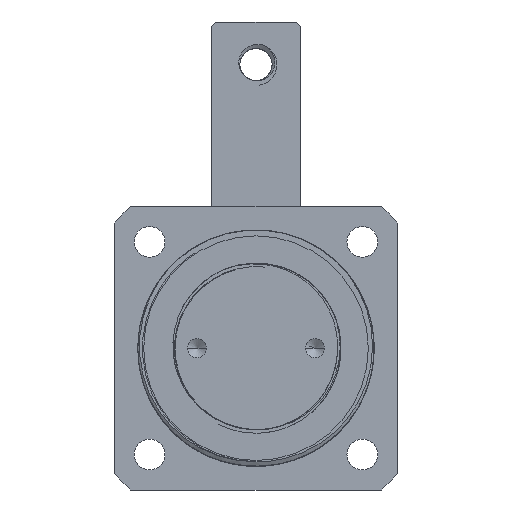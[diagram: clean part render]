
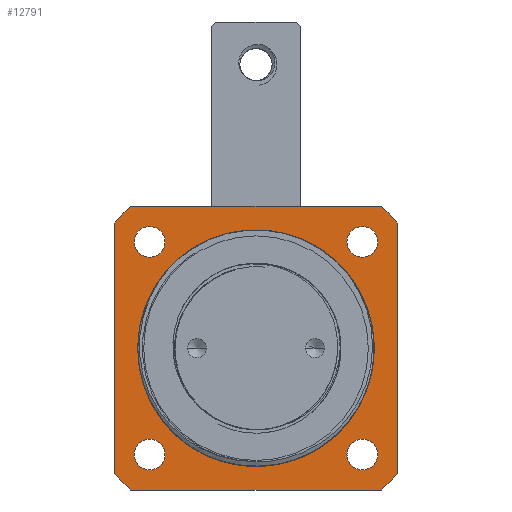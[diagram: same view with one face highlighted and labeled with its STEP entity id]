
A CAD part, left-side view. The second image highlights one B-rep face of the part: STEP entity #12791.
In plain terms, the highlighted planar face has unit normal (-1, 0, 0).
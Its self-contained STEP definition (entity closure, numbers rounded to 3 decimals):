
#1667=DIRECTION('',(0.,-1.,0.));
#1668=VECTOR('',#1667,52.915);
#1669=CARTESIAN_POINT('',(72.5,26.458,-30.));
#1670=LINE('',#1669,#1668);
#1710=DIRECTION('',(0.,0.,-1.));
#1711=VECTOR('',#1710,52.915);
#1712=CARTESIAN_POINT('',(72.5,30.,26.458));
#1713=LINE('',#1712,#1711);
#1797=DIRECTION('',(0.,1.,0.));
#1798=VECTOR('',#1797,52.915);
#1799=CARTESIAN_POINT('',(72.5,-26.458,30.));
#1800=LINE('',#1799,#1798);
#1843=CARTESIAN_POINT('',(72.5,-22.5,22.5));
#1844=DIRECTION('',(-1.,0.,0.));
#1845=DIRECTION('',(0.,0.,1.));
#1846=AXIS2_PLACEMENT_3D('',#1843,#1844,#1845);
#1848=CARTESIAN_POINT('',(72.5,-22.5,22.5));
#1849=DIRECTION('',(-1.,0.,0.));
#1850=DIRECTION('',(0.,0.,-1.));
#1851=AXIS2_PLACEMENT_3D('',#1848,#1849,#1850);
#1853=CARTESIAN_POINT('',(72.5,22.5,22.5));
#1854=DIRECTION('',(-1.,0.,0.));
#1855=DIRECTION('',(0.,0.,1.));
#1856=AXIS2_PLACEMENT_3D('',#1853,#1854,#1855);
#1858=CARTESIAN_POINT('',(72.5,22.5,22.5));
#1859=DIRECTION('',(-1.,0.,0.));
#1860=DIRECTION('',(0.,0.,-1.));
#1861=AXIS2_PLACEMENT_3D('',#1858,#1859,#1860);
#1863=CARTESIAN_POINT('',(72.5,-22.5,-22.5));
#1864=DIRECTION('',(-1.,0.,0.));
#1865=DIRECTION('',(0.,0.,1.));
#1866=AXIS2_PLACEMENT_3D('',#1863,#1864,#1865);
#1868=CARTESIAN_POINT('',(72.5,-22.5,-22.5));
#1869=DIRECTION('',(-1.,0.,0.));
#1870=DIRECTION('',(0.,0.,-1.));
#1871=AXIS2_PLACEMENT_3D('',#1868,#1869,#1870);
#1873=CARTESIAN_POINT('',(72.5,22.5,-22.5));
#1874=DIRECTION('',(-1.,0.,0.));
#1875=DIRECTION('',(0.,0.,1.));
#1876=AXIS2_PLACEMENT_3D('',#1873,#1874,#1875);
#1878=CARTESIAN_POINT('',(72.5,22.5,-22.5));
#1879=DIRECTION('',(-1.,0.,0.));
#1880=DIRECTION('',(0.,0.,-1.));
#1881=AXIS2_PLACEMENT_3D('',#1878,#1879,#1880);
#1883=CARTESIAN_POINT('',(72.5,0.,0.));
#1884=DIRECTION('',(1.,0.,0.));
#1885=DIRECTION('',(0.,-0.661,0.75));
#1886=AXIS2_PLACEMENT_3D('',#1883,#1884,#1885);
#1888=DIRECTION('',(0.,0.,-1.));
#1889=VECTOR('',#1888,52.915);
#1890=CARTESIAN_POINT('',(72.5,-30.,26.458));
#1891=LINE('',#1890,#1889);
#1892=CARTESIAN_POINT('',(72.5,0.,0.));
#1893=DIRECTION('',(1.,0.,0.));
#1894=DIRECTION('',(0.,-0.75,-0.661));
#1895=AXIS2_PLACEMENT_3D('',#1892,#1893,#1894);
#1897=CARTESIAN_POINT('',(72.5,0.,0.));
#1898=DIRECTION('',(1.,0.,0.));
#1899=DIRECTION('',(0.,0.661,-0.75));
#1900=AXIS2_PLACEMENT_3D('',#1897,#1898,#1899);
#1902=CARTESIAN_POINT('',(72.5,0.,0.));
#1903=DIRECTION('',(1.,0.,0.));
#1904=DIRECTION('',(0.,0.75,0.661));
#1905=AXIS2_PLACEMENT_3D('',#1902,#1903,#1904);
#4332=CARTESIAN_POINT('',(72.5,0.,0.));
#4333=DIRECTION('',(1.,0.,0.));
#4334=DIRECTION('',(0.,-1.,0.));
#4335=AXIS2_PLACEMENT_3D('',#4332,#4333,#4334);
#6811=CARTESIAN_POINT('',(72.5,0.,0.));
#6812=DIRECTION('',(1.,0.,0.));
#6813=DIRECTION('',(0.,1.,0.));
#6814=AXIS2_PLACEMENT_3D('',#6811,#6812,#6813);
#10502=CARTESIAN_POINT('',(72.5,-22.5,25.75));
#10503=CARTESIAN_POINT('',(72.5,-22.5,19.25));
#10504=VERTEX_POINT('',#10502);
#10505=VERTEX_POINT('',#10503);
#10506=CARTESIAN_POINT('',(72.5,22.5,25.75));
#10507=CARTESIAN_POINT('',(72.5,22.5,19.25));
#10508=VERTEX_POINT('',#10506);
#10509=VERTEX_POINT('',#10507);
#10510=CARTESIAN_POINT('',(72.5,-22.5,-19.25));
#10511=CARTESIAN_POINT('',(72.5,-22.5,-25.75));
#10512=VERTEX_POINT('',#10510);
#10513=VERTEX_POINT('',#10511);
#10514=CARTESIAN_POINT('',(72.5,22.5,-19.25));
#10515=CARTESIAN_POINT('',(72.5,22.5,-25.75));
#10516=VERTEX_POINT('',#10514);
#10517=VERTEX_POINT('',#10515);
#10518=CARTESIAN_POINT('',(72.5,-26.458,30.));
#10519=CARTESIAN_POINT('',(72.5,-30.,26.458));
#10520=VERTEX_POINT('',#10518);
#10521=VERTEX_POINT('',#10519);
#10522=CARTESIAN_POINT('',(72.5,-30.,-26.458));
#10523=VERTEX_POINT('',#10522);
#10524=CARTESIAN_POINT('',(72.5,-26.458,-30.));
#10525=VERTEX_POINT('',#10524);
#10526=CARTESIAN_POINT('',(72.5,26.458,-30.));
#10527=CARTESIAN_POINT('',(72.5,30.,-26.458));
#10528=VERTEX_POINT('',#10526);
#10529=VERTEX_POINT('',#10527);
#10530=CARTESIAN_POINT('',(72.5,30.,26.458));
#10531=CARTESIAN_POINT('',(72.5,26.458,30.));
#10532=VERTEX_POINT('',#10530);
#10533=VERTEX_POINT('',#10531);
#10534=CARTESIAN_POINT('',(72.5,-25.,0.));
#10535=CARTESIAN_POINT('',(72.5,25.,0.));
#10536=VERTEX_POINT('',#10534);
#10537=VERTEX_POINT('',#10535);
#12746=CARTESIAN_POINT('',(72.5,0.,0.));
#12747=DIRECTION('',(1.,0.,0.));
#12748=DIRECTION('',(0.,0.,1.));
#12749=AXIS2_PLACEMENT_3D('',#12746,#12747,#12748);
#12750=PLANE('',#12749);
#12751=ORIENTED_EDGE('',*,*,#12713,.T.);
#12752=ORIENTED_EDGE('',*,*,#12727,.T.);
#12753=ORIENTED_EDGE('',*,*,#12740,.T.);
#12754=ORIENTED_EDGE('',*,*,#12624,.F.);
#12755=ORIENTED_EDGE('',*,*,#12640,.T.);
#12756=ORIENTED_EDGE('',*,*,#12654,.F.);
#12757=ORIENTED_EDGE('',*,*,#12684,.T.);
#12758=ORIENTED_EDGE('',*,*,#12699,.F.);
#12759=EDGE_LOOP('',(#12751,#12752,#12753,#12754,#12755,#12756,#12757,#12758));
#12760=FACE_OUTER_BOUND('',#12759,.F.);
#12762=ORIENTED_EDGE('',*,*,#12761,.T.);
#12764=ORIENTED_EDGE('',*,*,#12763,.T.);
#12765=EDGE_LOOP('',(#12762,#12764));
#12766=FACE_BOUND('',#12765,.F.);
#12768=ORIENTED_EDGE('',*,*,#12767,.T.);
#12770=ORIENTED_EDGE('',*,*,#12769,.T.);
#12771=EDGE_LOOP('',(#12768,#12770));
#12772=FACE_BOUND('',#12771,.F.);
#12774=ORIENTED_EDGE('',*,*,#12773,.T.);
#12776=ORIENTED_EDGE('',*,*,#12775,.T.);
#12777=EDGE_LOOP('',(#12774,#12776));
#12778=FACE_BOUND('',#12777,.F.);
#12780=ORIENTED_EDGE('',*,*,#12779,.T.);
#12782=ORIENTED_EDGE('',*,*,#12781,.T.);
#12783=EDGE_LOOP('',(#12780,#12782));
#12784=FACE_BOUND('',#12783,.F.);
#12786=ORIENTED_EDGE('',*,*,#12785,.F.);
#12788=ORIENTED_EDGE('',*,*,#12787,.F.);
#12789=EDGE_LOOP('',(#12786,#12788));
#12790=FACE_BOUND('',#12789,.F.);
#12791=ADVANCED_FACE('',(#12760,#12766,#12772,#12778,#12784,#12790),#12750,.F.);
#1847=CIRCLE('',#1846,3.25);
#1852=CIRCLE('',#1851,3.25);
#1857=CIRCLE('',#1856,3.25);
#1862=CIRCLE('',#1861,3.25);
#1867=CIRCLE('',#1866,3.25);
#1872=CIRCLE('',#1871,3.25);
#1877=CIRCLE('',#1876,3.25);
#1882=CIRCLE('',#1881,3.25);
#1887=CIRCLE('',#1886,40.);
#1896=CIRCLE('',#1895,40.);
#1901=CIRCLE('',#1900,40.);
#1906=CIRCLE('',#1905,40.);
#4336=CIRCLE('',#4335,25.);
#6815=CIRCLE('',#6814,25.);
#12624=EDGE_CURVE('',#10528,#10525,#1670,.T.);
#12640=EDGE_CURVE('',#10528,#10529,#1901,.T.);
#12654=EDGE_CURVE('',#10532,#10529,#1713,.T.);
#12684=EDGE_CURVE('',#10532,#10533,#1906,.T.);
#12699=EDGE_CURVE('',#10520,#10533,#1800,.T.);
#12713=EDGE_CURVE('',#10520,#10521,#1887,.T.);
#12727=EDGE_CURVE('',#10521,#10523,#1891,.T.);
#12740=EDGE_CURVE('',#10523,#10525,#1896,.T.);
#12761=EDGE_CURVE('',#10504,#10505,#1847,.T.);
#12763=EDGE_CURVE('',#10505,#10504,#1852,.T.);
#12767=EDGE_CURVE('',#10508,#10509,#1857,.T.);
#12769=EDGE_CURVE('',#10509,#10508,#1862,.T.);
#12773=EDGE_CURVE('',#10512,#10513,#1867,.T.);
#12775=EDGE_CURVE('',#10513,#10512,#1872,.T.);
#12779=EDGE_CURVE('',#10516,#10517,#1877,.T.);
#12781=EDGE_CURVE('',#10517,#10516,#1882,.T.);
#12785=EDGE_CURVE('',#10536,#10537,#4336,.T.);
#12787=EDGE_CURVE('',#10537,#10536,#6815,.T.);
